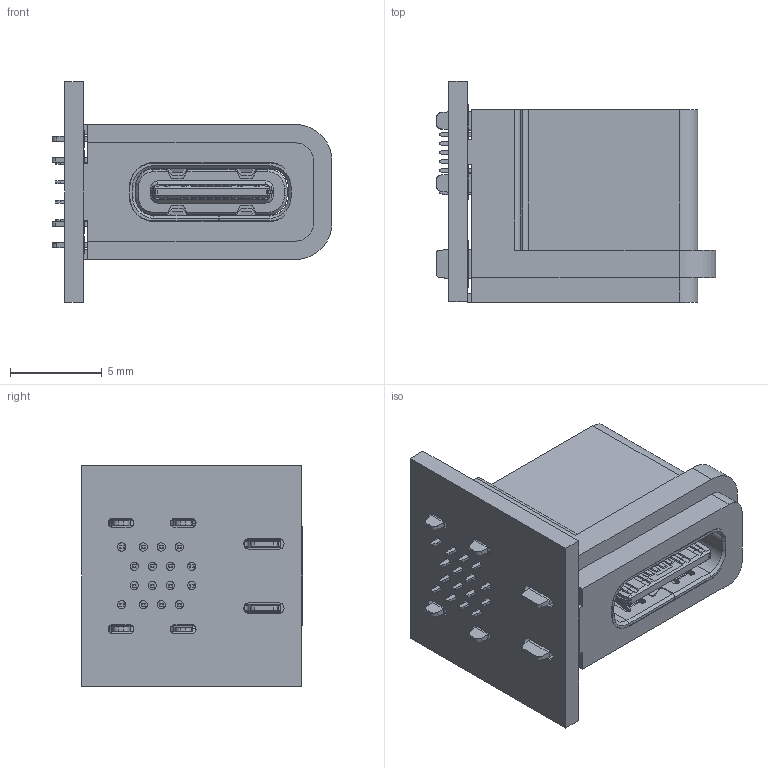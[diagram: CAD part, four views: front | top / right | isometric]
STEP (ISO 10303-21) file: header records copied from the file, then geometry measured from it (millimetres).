
FILE_DESCRIPTION((''),'2;1');
FILE_NAME('USB-CF-DIP-023-HB_3D-20210519','2021-05-19T17:19:34',('eng06'),(''),'CREO PARAMETRIC BY PTC INC, 2019010','CREO PARAMETRIC BY PTC INC, 2019010','');
FILE_SCHEMA(('CONFIG_CONTROL_DESIGN'));
Products named in the file (1): USB-CF-DIP-023-HB_3D-20210519
Bounding box: 15.27 x 12.04 x 12 mm (x, y, z)
Volume: 676 mm3; surface area: 2835.6 mm2
Topology: 2 solids, 27 shells, 2687 faces, 7507 edges, 4933 vertices
Faces by surface type: plane 1994, cylinder 655, cone 34, bspline 4
Entity records: 86286 total; most frequent: CARTESIAN_POINT 15941, ORIENTED_EDGE 15014, DIRECTION 13996, EDGE_CURVE 7507, VECTOR 6092, LINE 6092, VERTEX_POINT 4933, AXIS2_PLACEMENT_3D 3952
